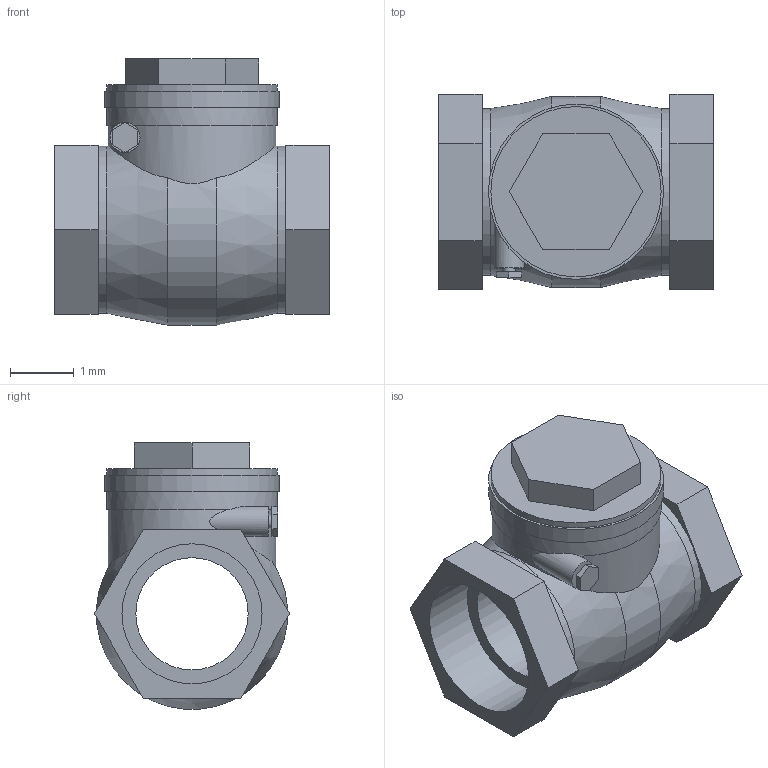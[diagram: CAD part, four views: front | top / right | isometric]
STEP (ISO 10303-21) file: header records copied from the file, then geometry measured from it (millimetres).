
FILE_DESCRIPTION(('Open CASCADE Model'),'2;1');
FILE_NAME('Open CASCADE Shape Model','2022-05-04T11:12:12',('Author'),( 'Open CASCADE'),'Open CASCADE STEP processor 7.3','Open CASCADE 7.3' ,'Unknown');
FILE_SCHEMA(('AUTOMOTIVE_DESIGN { 1 0 10303 214 1 1 1 1 }'));
Length unit declared in the file: millimetre
Products named in the file (1): Open CASCADE STEP translator 7.3 1
Bounding box: 4.3 x 3.06 x 4.17 mm (x, y, z)
Volume: 21 mm3; surface area: 87.7 mm2
Topology: 1 solids, 1 shells, 52 faces, 123 edges, 82 vertices
Faces by surface type: plane 38, cylinder 12, cone 2
Full cylindrical faces by diameter (mm): 0.2 x1, 0.47 x1, 1.76 x1, 2.195 x2, 2.62 x2, 2.628 x1, 2.67 x1, 2.675 x1, 2.745 x1
Entity records: 4100 total; most frequent: CARTESIAN_POINT 1608, DIRECTION 450, LINE 280, VECTOR 280, ORIENTED_EDGE 246, PCURVE 246, DEFINITIONAL_REPRESENTATION 246, EDGE_CURVE 123
